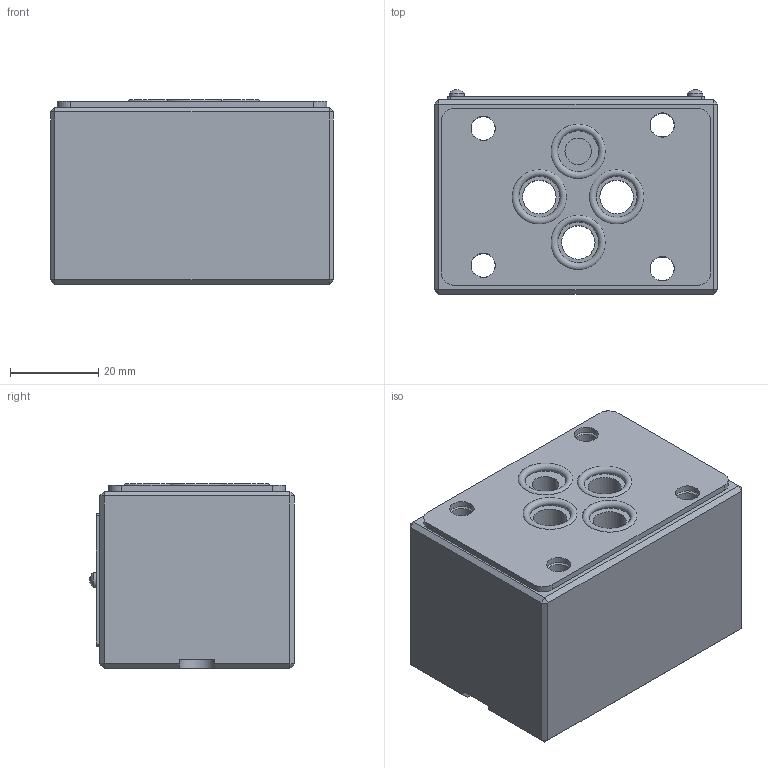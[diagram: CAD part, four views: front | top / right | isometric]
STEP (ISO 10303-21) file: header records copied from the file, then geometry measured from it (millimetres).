
FILE_DESCRIPTION(/* description */ (''),/* implementation_level */ '2;1');
FILE_NAME(/* name */ 'Z1S6P叠加式单向阀.prt.stp',/* time_stamp */ '2022-03-30T19:24:44+08:00',/* author */ (''),/* organization */ (''),/* preprocessor_version */ 'ST-DEVELOPER v16.7',/* originating_system */ 'SIEMENS PLM Software NX 12.0',/* authorisation */ '');
FILE_SCHEMA (('AUTOMOTIVE_DESIGN { 1 0 10303 214 3 1 1 1 }'));
Length unit declared in the file: millimetre
Products named in the file (1): Z1S6P叠加式单向阀
Bounding box: 64 x 46.3 x 41.78 mm (x, y, z)
Volume: 107392.4 mm3; surface area: 29516.9 mm2
Topology: 10 solids, 10 shells, 1054 faces, 2969 edges, 1966 vertices
Faces by surface type: plane 920, extrusion 77, cylinder 40, cone 11, torus 4, sphere 2
Full cylindrical faces by diameter (mm): 1.8 x4, 2 x2, 2.5 x2, 3.4 x2, 5.4 x4, 5.5 x4, 6 x1, 7.6 x3, 10 x1, 11 x1, 12 x1, 12.2 x4, 14 x2
Entity records: 40180 total; most frequent: CARTESIAN_POINT 6621, ORIENTED_EDGE 5822, DIRECTION 4880, EDGE_CURVE 2911, VECTOR 2744, LINE 2667, VERTEX_POINT 1962, EDGE_LOOP 1167
